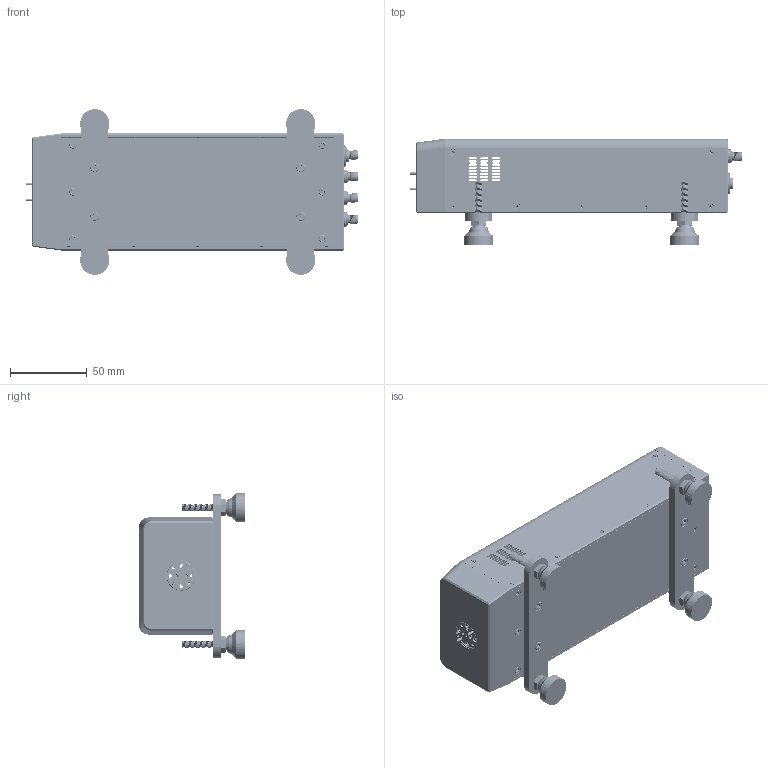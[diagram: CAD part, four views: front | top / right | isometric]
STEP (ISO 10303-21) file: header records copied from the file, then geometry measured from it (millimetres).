
FILE_DESCRIPTION (( 'STEP AP203' ), '1' );
FILE_NAME ('TO-SD-A-2.STEP', '2025-07-17T16:50:44', ( '' ), ( '' ), 'SwSTEP 2.0', 'SolidWorks 2021', '' );
FILE_SCHEMA (( 'CONFIG_CONTROL_DESIGN' ));
Products named in the file (1): TO-SD-A-2
Bounding box: 216.16 x 69.22 x 107.95 mm (x, y, z)
Volume: 228772.8 mm3; surface area: 158843.4 mm2
Topology: 110 solids, 110 shells, 4766 faces, 12627 edges, 8081 vertices
Faces by surface type: cylinder 2235, plane 1288, cone 765, bspline 458, sphere 16, torus 4
Entity records: 284067 total; most frequent: CARTESIAN_POINT 178976, ORIENTED_EDGE 24926, DIRECTION 18522, EDGE_CURVE 12463, VERTEX_POINT 8057, AXIS2_PLACEMENT_3D 6925, EDGE_LOOP 5200, FACE_OUTER_BOUND 4766
